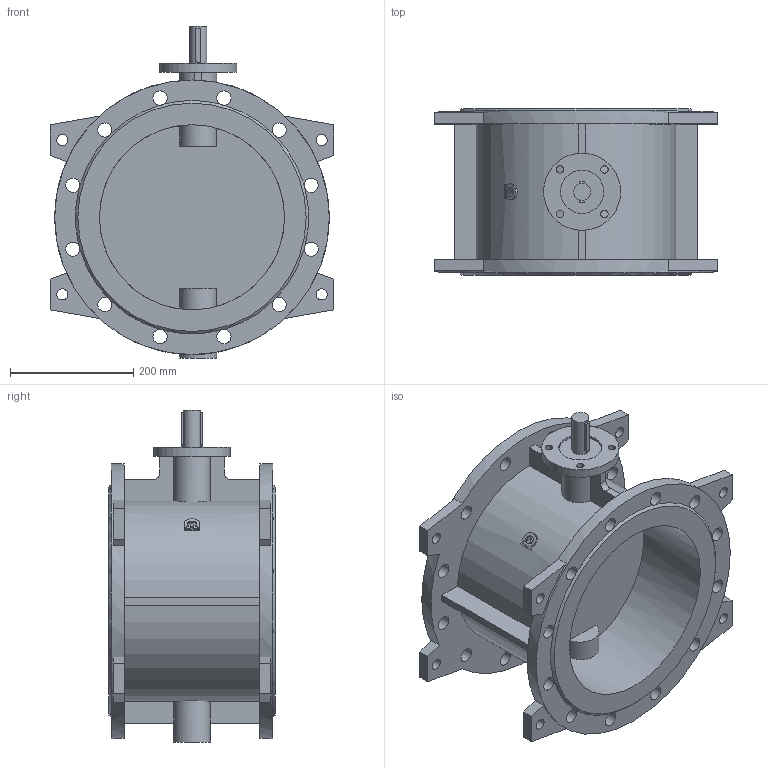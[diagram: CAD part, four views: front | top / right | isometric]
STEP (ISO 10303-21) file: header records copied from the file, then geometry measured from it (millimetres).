
FILE_DESCRIPTION(('STEP AP203'), '1');
FILE_NAME('Çàòâîð 023F.Z DN300 PN10 ïîä èñïîëíèòåëüíûé ìåõàíèçì', '', ('UNSPECIFIED'), ('UNSPECIFIED'), 'ASCON STEP Converter 1.6', 'ASCON Math Kernel', '');
FILE_SCHEMA(('CONFIG_CONTROL_DESIGN'));
Length unit declared in the file: millimetre
Bounding box: 460 x 270 x 538 mm (x, y, z)
Volume: 10143009.3 mm3; surface area: 1156809.8 mm2
Topology: 1 solids, 1 shells, 150 faces, 477 edges, 318 vertices
Faces by surface type: plane 85, cylinder 63, cone 2
Full cylindrical faces by diameter (mm): 12 x4, 18 x8, 23 x24, 28 x1, 60 x1, 70 x1, 125 x1, 300 x2, 445 x2
Entity records: 8658 total; most frequent: CARTESIAN_POINT 3146, DIRECTION 878, ORIENTED_EDGE 860, EDGE_CURVE 430, AXIS2_PLACEMENT_3D 340, VERTEX_POINT 318, EDGE_LOOP 258, LINE 198
